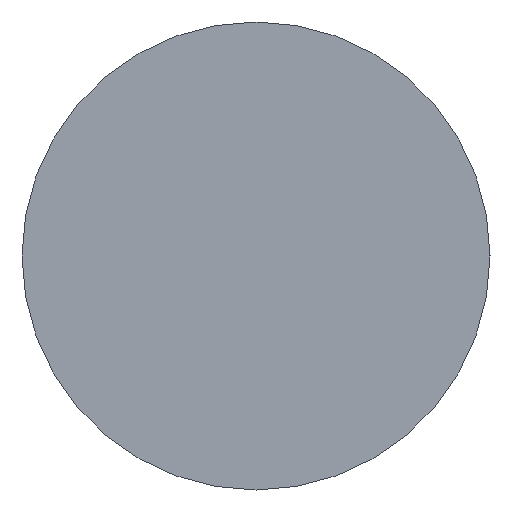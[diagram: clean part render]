
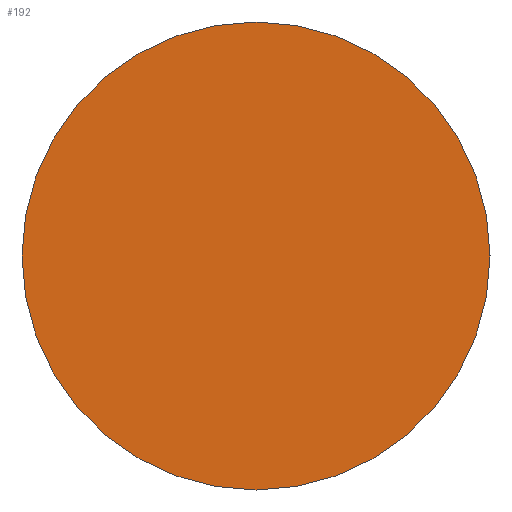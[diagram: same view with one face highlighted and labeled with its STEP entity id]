
A CAD part, left-side view. The second image highlights one B-rep face of the part: STEP entity #192.
In plain terms, the highlighted planar face has unit normal (-1, 0, 0).
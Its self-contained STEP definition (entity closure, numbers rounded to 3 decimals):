
#1 = ORIENTED_EDGE ( 'NONE', *, *, #85, .F. ) ;
#23 = VERTEX_POINT ( 'NONE', #80 ) ;
#26 = FACE_OUTER_BOUND ( 'NONE', #33, .T. ) ;
#28 = CARTESIAN_POINT ( 'NONE',  ( 0., 0., 0. ) ) ;
#33 = EDGE_LOOP ( 'NONE', ( #1, #250 ) ) ;
#47 = CIRCLE ( 'NONE', #126, 9. ) ;
#52 = PLANE ( 'NONE',  #219 ) ;
#70 = DIRECTION ( 'NONE',  ( -1., 0., 0. ) ) ;
#72 = DIRECTION ( 'NONE',  ( 0., 1., 0. ) ) ;
#80 = CARTESIAN_POINT ( 'NONE',  ( 0., 9., 0. ) ) ;
#85 = EDGE_CURVE ( 'NONE', #23, #118, #206, .T. ) ;
#95 = DIRECTION ( 'NONE',  ( 0., -1., 0. ) ) ;
#100 = CARTESIAN_POINT ( 'NONE',  ( 0., -9., 0. ) ) ;
#118 = VERTEX_POINT ( 'NONE', #100 ) ;
#123 = DIRECTION ( 'NONE',  ( 1., 0., 0. ) ) ;
#126 = AXIS2_PLACEMENT_3D ( 'NONE', #202, #123, #209 ) ;
#129 = EDGE_CURVE ( 'NONE', #118, #23, #47, .T. ) ;
#138 = CARTESIAN_POINT ( 'NONE',  ( 0., 0., 0. ) ) ;
#192 = ADVANCED_FACE ( 'NONE', ( #26 ), #52, .T. ) ;
#202 = CARTESIAN_POINT ( 'NONE',  ( 0., 0., 0. ) ) ;
#206 = CIRCLE ( 'NONE', #213, 9. ) ;
#209 = DIRECTION ( 'NONE',  ( 0., 1., 0. ) ) ;
#213 = AXIS2_PLACEMENT_3D ( 'NONE', #138, #221, #72 ) ;
#219 = AXIS2_PLACEMENT_3D ( 'NONE', #28, #70, #95 ) ;
#221 = DIRECTION ( 'NONE',  ( 1., 0., 0. ) ) ;
#250 = ORIENTED_EDGE ( 'NONE', *, *, #129, .F. ) ;
